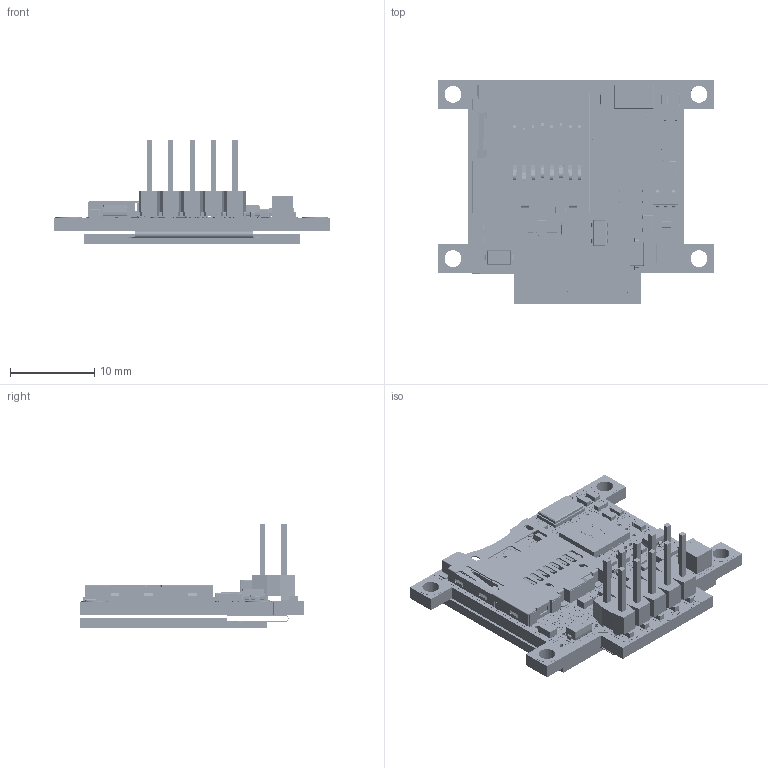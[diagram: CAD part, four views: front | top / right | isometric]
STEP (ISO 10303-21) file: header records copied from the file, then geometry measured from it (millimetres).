
FILE_DESCRIPTION (( 'STEP AP214' ), '1' );
FILE_NAME ('uOLED-96-G2-REV4-STEP.STEP', '2012-08-23T22:24:14', ( 'James' ), ( '' ), 'SwSTEP 2.0', 'SolidWorks 2010', '' );
FILE_SCHEMA (( 'AUTOMOTIVE_DESIGN' ));
Length unit declared in the file: millimetre
Products named in the file (66): uOLED-96G2-REV4OutLine; uOLED-96-G2-PCB Components; J1; 473340001; Open CASCADE STEP translator 6.2 11.2.1.1; R14; R13; C15; CN3; 2x5Header; C14; C13; C1; C2; R4; D2; C6; R3; C7; C4; U3; U2; SW3DPS-SOT-23-5-DEFAULT; U1; SW3dPS-QFN-28; SW3dPS-QFN-28_Board1; SW3dPS-QFN-28_Free-Models1; SW3dPS-QFN-28_358110817; SW3dPS-QFN-28_Cylinder1; SW3dPS-QFN-28_358339921; SW3dPS-QFN-28_Extruded24; SW3dPS-QFN-28_358339665; SW3dPS-QFN-28_Extruded19; SW3dPS-QFN-28_358336465; SW3dPS-QFN-28_Extruded14; SW3dPS-QFN-28_358336593; SW3dPS-QFN-28_Extruded22; SW3dPS-QFN-28_358337873; SW3dPS-QFN-28_Extruded21; SW3dPS-QFN-28_358336849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
Assembly tree (110 placements, depth 7):
  uOLED-96-G2-REV4-STEP
    uOLED-96-G2-PCB Components
      U1
        SW3dPS-QFN-28
          SW3dPS-QFN-28_Free-Models1
            SW3dPS-QFN-28_358336849  x7
              SW3dPS-QFN-28_Extruded25
            SW3dPS-QFN-28_358339921
              SW3dPS-QFN-28_Extruded24
            SW3dPS-QFN-28_358336465  x7
              SW3dPS-QFN-28_Extruded14
            SW3dPS-QFN-28_358337873  x7
              SW3dPS-QFN-28_Extruded21
            SW3dPS-QFN-28_358336593  x7
              SW3dPS-QFN-28_Extruded22
            SW3dPS-QFN-28_358339665
              SW3dPS-QFN-28_Extruded19
            SW3dPS-QFN-28_358110817
              SW3dPS-QFN-28_Cylinder1
          SW3dPS-QFN-28_Board1
      C12
        User_Library-cap_0603_lowprofile
      R6
        User_Library-RES_0603L
          User_Library-RES_0603L_RES_0603_Lead_1  x2
          User_Library-RES_0603L_RES_0603_Body_1
      U2
        SW3DPS-SOT-23-5-DEFAULT
      R2
        User_Library-RES_0603L
          User_Library-RES_0603L_RES_0603_Lead_1  x2
          User_Library-RES_0603L_RES_0603_Body_1
      C3
        User_Library-cap_0805_lowprofile
      R13
        User_Library-RES_0603L
          User_Library-RES_0603L_RES_0603_Lead_1  x2
          User_Library-RES_0603L_RES_0603_Body_1
      C2
        User_Library-cap_0805_lowprofile
      R4
        User_Library-RES_0603L
          User_Library-RES_0603L_RES_0603_Lead_1  x2
          User_Library-RES_0603L_RES_0603_Body_1
      C11
        User_Library-cap_0603_lowprofile
      C1
        User_Library-cap_0603_lowprofile
      R3
        User_Library-RES_0603L
          User_Library-RES_0603L_RES_0603_Lead_1  x2
          User_Library-RES_0603L_RES_0603_Body_1
      C13
        User_Library-cap_0603_lowprofile
      D2
        User_Library-SOD-123_DiodesInc
      C9
        User_Library-cap_0603_lowprofile
      J1
        473340001
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Bounding box: 32.72 x 26.68 x 12.28 mm (x, y, z)
Volume: 2183.3 mm3; surface area: 6485.1 mm2
Topology: 289 solids, 289 shells, 8411 faces, 22319 edges, 14568 vertices
Faces by surface type: plane 5525, cylinder 1995, bspline 891
Entity records: 320355 total; most frequent: CARTESIAN_POINT 70867, ORIENTED_EDGE 37976, DIRECTION 33882, EDGE_CURVE 18988, LINE 14080, VECTOR 14080, VERTEX_POINT 12580, AXIS2_PLACEMENT_3D 9901
